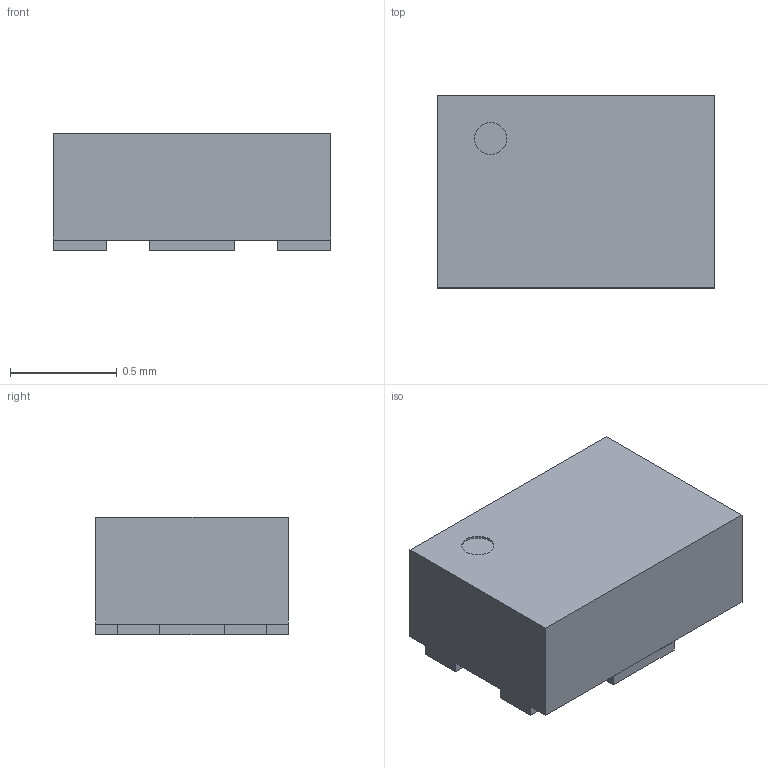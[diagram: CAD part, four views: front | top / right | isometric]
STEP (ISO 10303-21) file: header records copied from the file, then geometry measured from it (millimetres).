
FILE_DESCRIPTION(/* description */ (''),/* implementation_level */ '2;1');
FILE_NAME(/* name */ 'HGDEDM013A.step',/* time_stamp */ '2026-08-18T11:32:12-04:00',/* author */ (''),/* organization */ (''),/* preprocessor_version */ 'ST-DEVELOPER v20.1',/* originating_system */ 'Autodesk Translation Framework v15.8.0.0',/* authorisation */ '');
FILE_SCHEMA (('AUTOMOTIVE_DESIGN { 1 0 10303 214 3 1 1 }'));
Length unit declared in the file: millimetre
Products named in the file (1): 2026-08-18-11-08-21-695
Bounding box: 1.3 x 0.9 x 0.55 mm (x, y, z)
Volume: 0.6 mm3; surface area: 6 mm2
Topology: 6 solids, 6 shells, 39 faces, 78 edges, 52 vertices
Faces by surface type: plane 38, cylinder 1
Full cylindrical faces by diameter (mm): 0.15 x1
Entity records: 1029 total; most frequent: CARTESIAN_POINT 170, DIRECTION 160, ORIENTED_EDGE 156, EDGE_CURVE 78, LINE 76, VECTOR 76, VERTEX_POINT 52, AXIS2_PLACEMENT_3D 42
